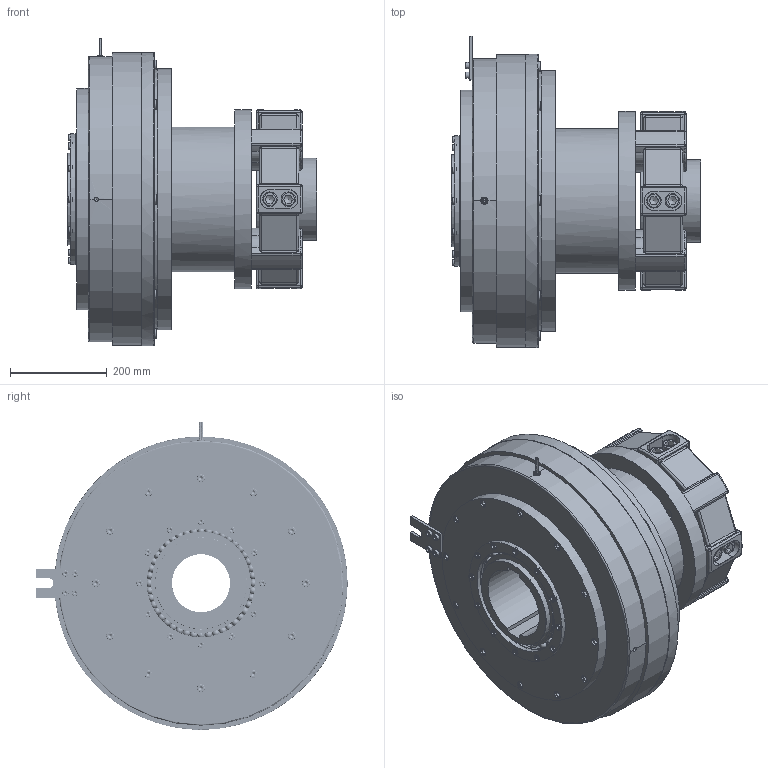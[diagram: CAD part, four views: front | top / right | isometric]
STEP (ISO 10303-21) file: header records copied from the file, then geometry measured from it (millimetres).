
FILE_DESCRIPTION(/* description */ (''),/* implementation_level */ '2;1');
FILE_NAME(/* name */ 'X:\INVENTOR\DISEGNI\08_Freni_Friz_Elettmag_Monodisco\08_26 EMSL_DF\EMSL_DF STEP\08_26_600_51 EMSL600_DF-GE@STEP.stp',/* time_stamp */ '2018-04-24T10:23:15+02:00',/* author */ ('stefano'),/* organization */ (''),/* preprocessor_version */ 'ST-DEVELOPER v17',/* originating_system */ 'Autodesk Inventor 2018',/* authorisation */ '');
FILE_SCHEMA (('AUTOMOTIVE_DESIGN { 1 0 10303 214 3 1 1 }'));
Products named in the file (1): 08_26_600_51 EMSL600_DF-GE_Substitute_1
Bounding box: 515 x 643 x 635.72 mm (x, y, z)
Volume: 49425159.9 mm3; surface area: 4349109.1 mm2
Topology: 2 solids, 2 shells, 2355 faces, 7402 edges, 4955 vertices
Faces by surface type: plane 962, cylinder 740, torus 368, cone 163, sphere 119, bspline 3
Full cylindrical faces by diameter (mm): 4 x2, 5 x16, 8 x20, 8.376 x1, 8.5 x12, 10 x20, 13 x16, 13.5 x12, 13.835 x8, 14 x16, 15 x1, 16 x24, 16.5 x12, 17.294 x16, 18 x8, 18.5 x8, 19.8 x16, 20 x16, 22 x16, 24 x8, 30 x8, 36 x4, 42.5 x8, 105 x8, 120 x1, 170 x1, 185 x2, 190 x4, 192 x1, 206 x9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
Entity records: 101925 total; most frequent: CARTESIAN_POINT 33886, ORIENTED_EDGE 14240, DIRECTION 13913, EDGE_CURVE 7120, AXIS2_PLACEMENT_3D 5827, VERTEX_POINT 4955, CIRCLE 3474, EDGE_LOOP 2947
